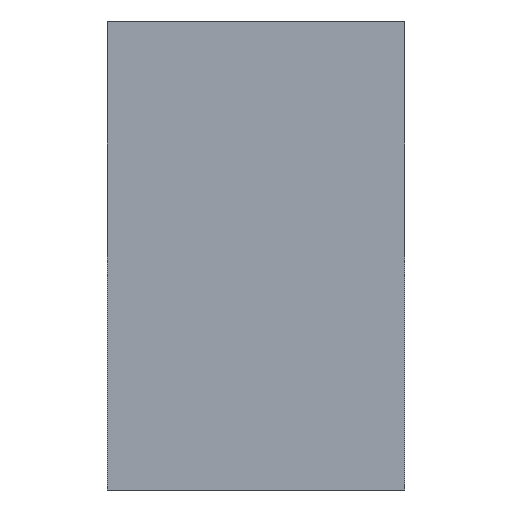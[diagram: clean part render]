
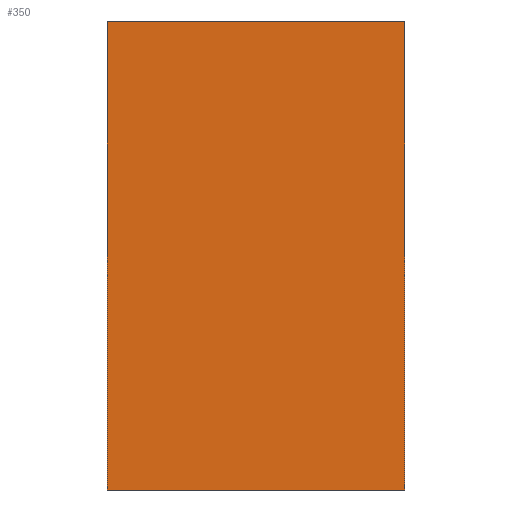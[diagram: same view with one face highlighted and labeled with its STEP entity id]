
A CAD part, left-side view. The second image highlights one B-rep face of the part: STEP entity #350.
In plain terms, the highlighted planar face has unit normal (-1, 0, 0).
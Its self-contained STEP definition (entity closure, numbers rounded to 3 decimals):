
#57=CARTESIAN_POINT('Line Origine',(-62.5,14.,0.)) ;
#61=CARTESIAN_POINT('Vertex',(-62.5,14.,-11.)) ;
#63=CARTESIAN_POINT('Vertex',(-62.5,14.,11.)) ;
#320=CARTESIAN_POINT('Axis2P3D Location',(-62.5,0.,-0.)) ;
#325=CARTESIAN_POINT('Line Origine',(-62.5,7.,-11.)) ;
#329=CARTESIAN_POINT('Vertex',(-62.5,0.,-11.)) ;
#332=CARTESIAN_POINT('Line Origine',(-62.5,0.,0.)) ;
#336=CARTESIAN_POINT('Vertex',(-62.5,0.,11.)) ;
#339=CARTESIAN_POINT('Line Origine',(-62.5,7.,11.)) ;
#58=DIRECTION('Vector Direction',(0.,0.,1.)) ;
#321=DIRECTION('Axis2P3D Direction',(1.,0.,-0.)) ;
#322=DIRECTION('Axis2P3D XDirection',(-0.,0.,-1.)) ;
#326=DIRECTION('Vector Direction',(0.,1.,0.)) ;
#333=DIRECTION('Vector Direction',(0.,0.,-1.)) ;
#340=DIRECTION('Vector Direction',(0.,-1.,0.)) ;
#323=AXIS2_PLACEMENT_3D('Plane Axis2P3D',#320,#321,#322) ;
#345=ORIENTED_EDGE('',*,*,#65,.F.) ;
#346=ORIENTED_EDGE('',*,*,#331,.F.) ;
#347=ORIENTED_EDGE('',*,*,#338,.F.) ;
#348=ORIENTED_EDGE('',*,*,#343,.F.) ;
#59=VECTOR('Line Direction',#58,1.) ;
#327=VECTOR('Line Direction',#326,1.) ;
#334=VECTOR('Line Direction',#333,1.) ;
#341=VECTOR('Line Direction',#340,1.) ;
#350=ADVANCED_FACE('761-014125',(#349),#324,.F.) ;
#65=EDGE_CURVE('',#62,#64,#60,.T.) ;
#331=EDGE_CURVE('',#330,#62,#328,.T.) ;
#338=EDGE_CURVE('',#337,#330,#335,.T.) ;
#343=EDGE_CURVE('',#64,#337,#342,.T.) ;
#344=EDGE_LOOP('',(#345,#346,#347,#348)) ;
#349=FACE_OUTER_BOUND('',#344,.T.) ;
#60=LINE('Line',#57,#59) ;
#328=LINE('Line',#325,#327) ;
#335=LINE('Line',#332,#334) ;
#342=LINE('Line',#339,#341) ;
#324=PLANE('Plane',#323) ;
#62=VERTEX_POINT('',#61) ;
#64=VERTEX_POINT('',#63) ;
#330=VERTEX_POINT('',#329) ;
#337=VERTEX_POINT('',#336) ;
